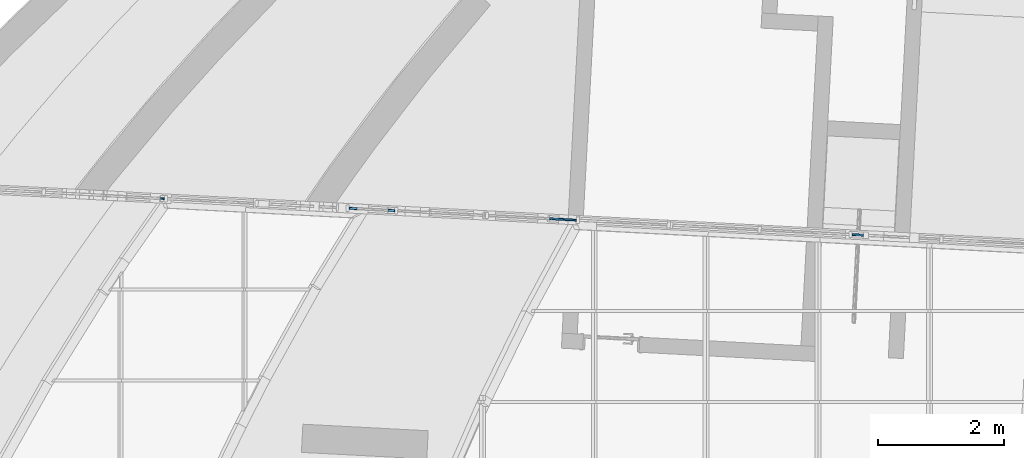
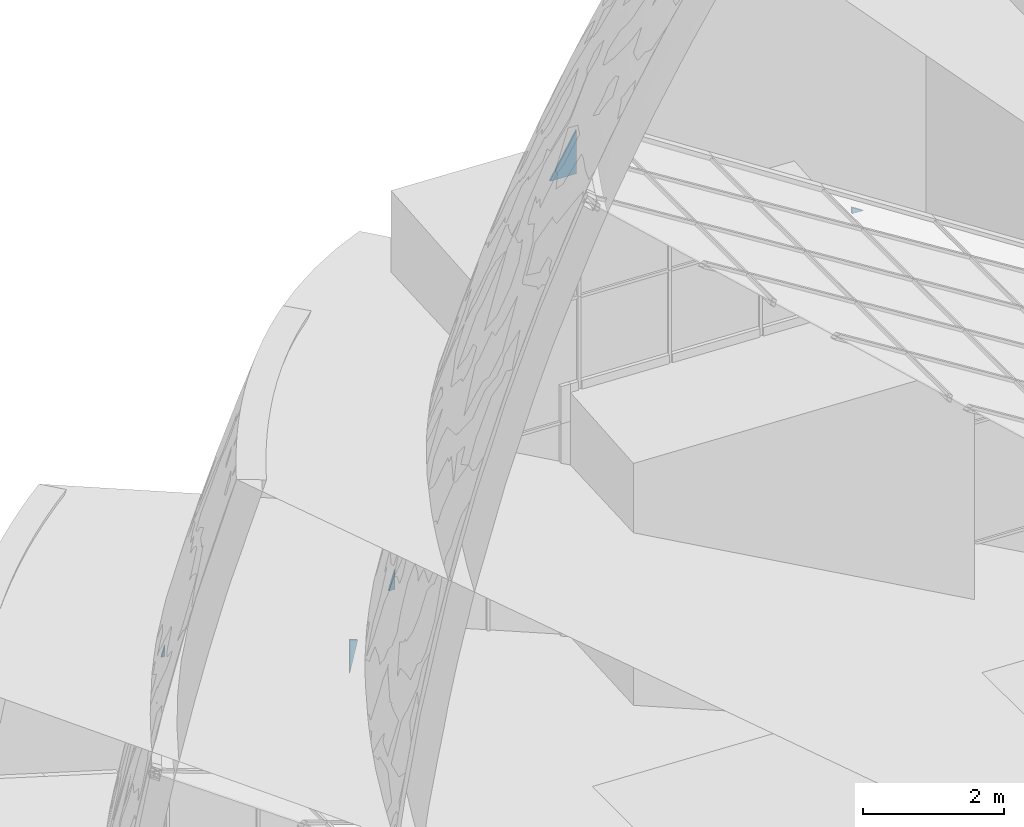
# One storey, part 49 of 82: 5 plates, 2 elements without a shape of their own.
"""IFC2X3 building model written with IfcOpenShell, lengths in millimetres."""

from ifc_helpers import new_model, entity, si_unit, converted_unit, derived_unit, direction, frame, origin, place, context, subcontext, project, spatial, polyline, outline, extrude, source, transform, mapped, material, layer, layer_set, layer_usage, type_object, type_shapes, element, aggregate, save


model = new_model("IFC2X3")

# Units and contexts
model_context = context("Model", 3, precision=0.01, world=origin(), true_north=direction((6.12303176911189e-17, 1.0)))
body_context = subcontext(model_context, "Body", "Model", "MODEL_VIEW")
ifc_project = project(units=[si_unit("LENGTHUNIT", "METRE", prefix="MILLI"), si_unit("AREAUNIT", "SQUARE_METRE"), si_unit("VOLUMEUNIT", "CUBIC_METRE"), converted_unit("PLANEANGLEUNIT", "DEGREE", entity("IfcRatioMeasure", 0.0174532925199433), si_unit("PLANEANGLEUNIT", "RADIAN"), dimensions=[0, 0, 0, 0, 0, 0, 0]), si_unit("MASSUNIT", "GRAM", prefix="KILO"), derived_unit("MASSDENSITYUNIT", [(si_unit("MASSUNIT", "GRAM", prefix="KILO"), 1), (si_unit("LENGTHUNIT", "METRE"), -3)]), si_unit("TIMEUNIT", "SECOND"), si_unit("FREQUENCYUNIT", "HERTZ"), si_unit("THERMODYNAMICTEMPERATUREUNIT", "DEGREE_CELSIUS"), derived_unit("THERMALTRANSMITTANCEUNIT", [(si_unit("MASSUNIT", "GRAM", prefix="KILO"), 1), (si_unit("THERMODYNAMICTEMPERATUREUNIT", "KELVIN"), -1), (si_unit("TIMEUNIT", "SECOND"), -3)]), derived_unit("VOLUMETRICFLOWRATEUNIT", [(si_unit("LENGTHUNIT", "METRE"), 3), (si_unit("TIMEUNIT", "SECOND"), -1)]), si_unit("ELECTRICCURRENTUNIT", "AMPERE"), si_unit("ELECTRICVOLTAGEUNIT", "VOLT"), si_unit("POWERUNIT", "WATT"), si_unit("FORCEUNIT", "NEWTON", prefix="KILO"), si_unit("ILLUMINANCEUNIT", "LUX"), si_unit("LUMINOUSFLUXUNIT", "LUMEN"), si_unit("LUMINOUSINTENSITYUNIT", "CANDELA"), derived_unit("USERDEFINED", [(si_unit("MASSUNIT", "GRAM", prefix="KILO"), -1), (si_unit("LENGTHUNIT", "METRE"), -2), (si_unit("TIMEUNIT", "SECOND"), 3), (si_unit("LUMINOUSFLUXUNIT", "LUMEN"), 1)]), derived_unit("LINEARVELOCITYUNIT", [(si_unit("LENGTHUNIT", "METRE"), 1), (si_unit("TIMEUNIT", "SECOND"), -1)]), si_unit("PRESSUREUNIT", "PASCAL"), derived_unit("USERDEFINED", [(si_unit("LENGTHUNIT", "METRE"), -2), (si_unit("MASSUNIT", "GRAM", prefix="KILO"), 1), (si_unit("TIMEUNIT", "SECOND"), -2)])], contexts=[model_context])

# Site, building, storey
site_placement = place(None, origin())
site = spatial("IfcSite", under=ifc_project, at=site_placement, Name="表面", CompositionType="ELEMENT")
building_placement = place(site_placement, origin())
building = spatial("IfcBuilding", under=site, at=building_placement, CompositionType="ELEMENT")
storey_placement = place(building_placement, origin())
storey = spatial("IfcBuildingStorey", under=building, at=storey_placement, Name="1F", CompositionType="ELEMENT", Elevation=0.0)

# Curtain wall, plates
curtain_wall_type = type_object("IfcCurtainWallType", Name="幕墙系统:1450 x 2100mm", PredefinedType="NOTDEFINED")
curtain_wall_1_placement = place(storey_placement, origin())
curtain_wall_1 = element("IfcCurtainWall", 1, at=curtain_wall_1_placement, inside=storey, type_object=curtain_wall_type, Name="幕墙系统:1450 x 2100mm", ObjectType="幕墙系统:1450 x 2100mm")
ifc_material = material(Name="<Unnamed>")
ifc_layer = layer(ifc_material, 30.0)
ifc_layer_set = layer_set([ifc_layer], Name="幕墙系统:1450 x 2100mm")
ifc_layer_usage_1 = layer_usage(ifc_layer_set, "AXIS3", "POSITIVE", 0.0)
plate_type_1 = type_object("IfcPlateType", Name="玻璃", PredefinedType="CURTAIN_PANEL", material=ifc_layer_set)
shared_shape_1 = source(origin(), body_context, "Body", "SweptSolid", [
    extrude(outline(polyline([(-125.508750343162, -31.8703328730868), (222.384178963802, -31.8703328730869), (-96.8754286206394, 63.7406657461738), (-125.508750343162, -31.8703328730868)])), frame((16.6344105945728, -15.0, 111.089633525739), z_axis=(0.0, 1.0, 0.0), x_axis=(0.286888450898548, 0.0, 0.957963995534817)), (0.0, 0.0, 1.0), 30.0),
])
type_shapes(plate_type_1, [shared_shape_1])
plate_1_placement = place(curtain_wall_1_placement, frame((-28493.0883288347, 2712.6764310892, 8425.0), z_axis=(0.0, 0.0, 1.0), x_axis=(0.998629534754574, -0.0523359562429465, 0.0)))
plate_1 = element("IfcPlate", 2, at=plate_1_placement, type_object=plate_type_1, material=ifc_layer_usage_1, Name="系统嵌板:玻璃", ObjectType="玻璃", context=body_context, shape_type="MappedRepresentation", body=[
    mapped(shared_shape_1, transform((0.0, 0.0, 0.0), scale=1.0)),
])
ifc_layer_usage_2 = layer_usage(ifc_layer_set, "AXIS3", "POSITIVE", 0.0)
plate_type_2 = type_object("IfcPlateType", Name="玻璃", PredefinedType="CURTAIN_PANEL", material=ifc_layer_set)
shared_shape_2 = source(origin(), body_context, "Body", "SweptSolid", [
    extrude(outline(polyline([(-37.4702507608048, -60.0472287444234), (74.9405015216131, -60.0472287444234), (-37.4702507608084, 120.094457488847), (-37.4702507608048, -60.0472287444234)])), frame((-30.0236143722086, -15.0, 37.4702507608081), z_axis=(0.0, 1.0, 0.0), x_axis=(0.0, 0.0, 1.0)), (0.0, 0.0, 1.0), 30.0),
])
type_shapes(plate_type_2, [shared_shape_2])
plate_2_placement = place(curtain_wall_1_placement, frame((-21063.3104798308, 2323.29827345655, 12625.0), z_axis=(0.0, 0.0, 1.0), x_axis=(0.998629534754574, -0.0523359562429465, 0.0)))
plate_2 = element("IfcPlate", 3, at=plate_2_placement, type_object=plate_type_2, material=ifc_layer_usage_2, Name="系统嵌板:玻璃", ObjectType="玻璃", context=body_context, shape_type="MappedRepresentation", body=[
    mapped(shared_shape_2, transform((0.0, 0.0, 0.0), scale=1.0)),
])
ifc_layer_usage_3 = layer_usage(ifc_layer_set, "AXIS3", "POSITIVE", 0.0)
plate_type_3 = type_object("IfcPlateType", Name="玻璃", PredefinedType="CURTAIN_PANEL", material=ifc_layer_set)
shared_shape_3 = source(origin(), body_context, "Body", "SweptSolid", [
    extrude(outline(polyline([(-359.846488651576, -124.010469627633), (510.092076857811, -124.010469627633), (-150.245588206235, 248.020939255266), (-359.846488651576, -124.010469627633)])), frame((71.1687951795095, -15.0, 252.642303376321), z_axis=(0.0, 1.0, 0.0), x_axis=(0.490853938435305, 0.0, 0.871241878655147)), (0.0, 0.0, 1.0), 30.0),
])
type_shapes(plate_type_3, [shared_shape_3])
plate_3_placement = place(curtain_wall_1_placement, frame((-25760.4416193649, 2569.46448548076, 14725.0), z_axis=(0.0, 0.0, 1.0), x_axis=(0.998629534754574, -0.0523359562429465, 0.0)))
plate_3 = element("IfcPlate", 4, at=plate_3_placement, type_object=plate_type_3, material=ifc_layer_usage_3, Name="系统嵌板:玻璃", ObjectType="玻璃", context=body_context, shape_type="MappedRepresentation", body=[
    mapped(shared_shape_3, transform((0.0, 0.0, 0.0), scale=1.0)),
])
aggregate(curtain_wall_1, [plate_1, plate_2, plate_3])

curtain_wall_2_placement = place(storey_placement, origin())
curtain_wall_2 = element("IfcCurtainWall", 5, at=curtain_wall_2_placement, inside=storey, type_object=curtain_wall_type, Name="幕墙系统:1450 x 2100mm", ObjectType="幕墙系统:1450 x 2100mm")
ifc_layer_usage_4 = layer_usage(ifc_layer_set, "AXIS3", "POSITIVE", 0.0)
plate_type_4 = type_object("IfcPlateType", Name="玻璃", PredefinedType="CURTAIN_PANEL", material=ifc_layer_set)
shared_shape_4 = source(origin(), body_context, "Body", "SweptSolid", [
    extrude(outline(polyline([(-376.304776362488, -42.6884151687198), (211.426416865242, -42.6884151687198), (164.878359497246, 85.3768303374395), (-376.304776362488, -42.6884151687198)])), frame((-21.3442075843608, -15.0, 376.304776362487), z_axis=(0.0, 1.0, 0.0), x_axis=(0.0, 0.0, 1.0)), (0.0, 0.0, 1.0), 30.0),
])
type_shapes(plate_type_4, [shared_shape_4])
plate_4_placement = place(curtain_wall_2_placement, frame((-29103.6214269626, 2743.62794797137, 7189.06192316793), z_axis=(0.0, 0.0, 1.0), x_axis=(0.998629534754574, -0.0523359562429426, 0.0)))
plate_4 = element("IfcPlate", 6, at=plate_4_placement, type_object=plate_type_4, material=ifc_layer_usage_4, Name="系统嵌板:玻璃", ObjectType="玻璃", context=body_context, shape_type="MappedRepresentation", body=[
    mapped(shared_shape_4, transform((0.0, 0.0, 0.0), scale=1.0)),
])
ifc_layer_usage_5 = layer_usage(ifc_layer_set, "AXIS3", "POSITIVE", 0.0)
plate_type_5 = type_object("IfcPlateType", Name="玻璃", PredefinedType="CURTAIN_PANEL", material=ifc_layer_set)
shared_shape_5 = source(origin(), body_context, "Body", "SweptSolid", [
    extrude(outline(polyline([(-71.9748905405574, -18.4732873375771), (127.093886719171, -18.473287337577), (-55.1189961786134, 36.946574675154), (-71.9748905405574, -18.4732873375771)])), frame((9.65442080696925, -15.0, 63.4848151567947), z_axis=(0.0, 1.0, 0.0), x_axis=(0.290987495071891, 0.0, 0.956726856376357)), (0.0, 0.0, 1.0), 30.0),
])
type_shapes(plate_type_5, [shared_shape_5])
plate_5_placement = place(curtain_wall_2_placement, frame((-32142.446992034, 2902.88604746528, 8425.0), z_axis=(0.0, 0.0, 1.0), x_axis=(0.998629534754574, -0.0523359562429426, 0.0)))
plate_5 = element("IfcPlate", 7, at=plate_5_placement, type_object=plate_type_5, material=ifc_layer_usage_5, Name="系统嵌板:玻璃", ObjectType="玻璃", context=body_context, shape_type="MappedRepresentation", body=[
    mapped(shared_shape_5, transform((0.0, 0.0, 0.0), scale=1.0)),
])
aggregate(curtain_wall_2, [plate_4, plate_5])

save(model, "model.ifc")
